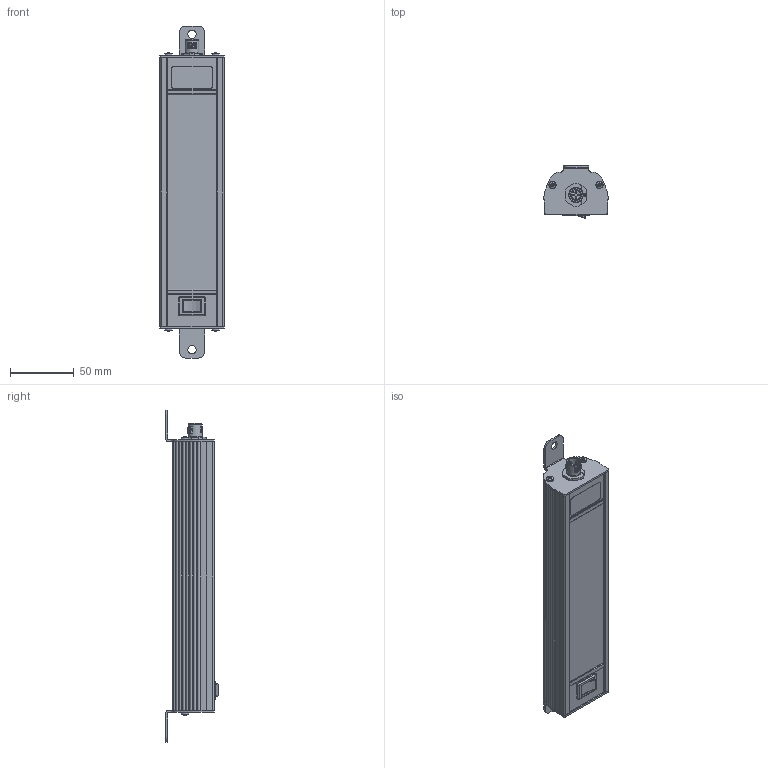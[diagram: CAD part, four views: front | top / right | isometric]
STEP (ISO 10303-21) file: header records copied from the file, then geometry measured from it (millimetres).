
FILE_DESCRIPTION (( 'STEP AP203' ), '1' );
FILE_NAME ('UV_LED_05 M12_24V_Schalter.STEP', '2024-07-19T10:10:29', ( '' ), ( '' ), 'SwSTEP 2.0', 'SolidWorks 2024', '' );
FILE_SCHEMA (( 'CONFIG_CONTROL_DESIGN' ));
Length unit declared in the file: millimetre
Products named in the file (10): Aluprofil_WorkLED_SE_UV-327; 00340082-Wippschalter_schwarz_Steck_4,8; Abdeckung_f. 1021_UV-327; UV_LED_05 M12_24V_Schalter; 00370187-Einbausteckverb.SACC-E-4Con-M16; 00400294-Rahmen_Schalter; 00400295_Rahmen_Schalter_ohneFenster; Befestigungswinkel_Phönix_f_WorkLED_fixed; 00590210_Blechschraube_DIN7981_2,9x9,5_brüniert; Befestigungswinkel_f_WorkLED_fixed
Assembly tree (12 placements, depth 2):
  UV_LED_05 M12_24V_Schalter
    Aluprofil_WorkLED_SE_UV-327
    00400295_Rahmen_Schalter_ohneFenster
    00370187-Einbausteckverb.SACC-E-4Con-M16
    00590210_Blechschraube_DIN7981_2,9x9,5_brüniert  x4
    Abdeckung_f. 1021_UV-327
    Befestigungswinkel_f_WorkLED_fixed
    Befestigungswinkel_Phönix_f_WorkLED_fixed
    00400294-Rahmen_Schalter
    00340082-Wippschalter_schwarz_Steck_4,8
Bounding box: 51.16 x 41.03 x 261.4 mm (x, y, z)
Volume: 93920.5 mm3; surface area: 114806.7 mm2
Topology: 13 solids, 13 shells, 957 faces, 2569 edges, 1648 vertices
Faces by surface type: plane 521, cylinder 318, bspline 99, cone 9, sphere 8, torus 2
Full cylindrical faces by diameter (mm): 0.5 x3, 0.9 x4, 1.4 x2, 2.9 x4, 3.2 x4, 4 x4, 5.6 x4, 6.4 x2, 10.7 x1, 10.9 x1
Entity records: 33031 total; most frequent: CARTESIAN_POINT 11382, ORIENTED_EDGE 4406, DIRECTION 4073, EDGE_CURVE 2203, VERTEX_POINT 1429, LINE 1381, VECTOR 1381, AXIS2_PLACEMENT_3D 1346
